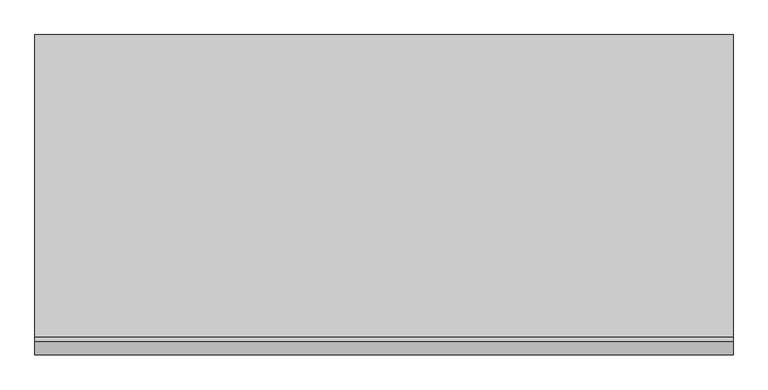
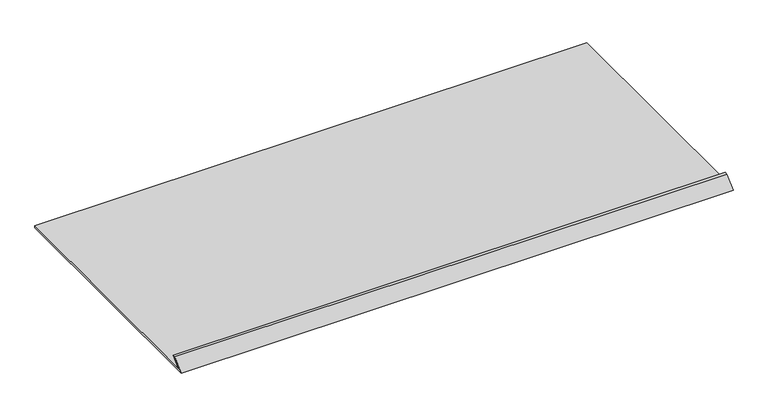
"""IFC4 building model written with IfcOpenShell, lengths in millimetres: proxy geometry, Подставка3 : Подставка."""

import ifcopenshell
import ifcopenshell.guid

model = None  # the IFC model being written
_history = None  # IfcOwnerHistory: only IFC2X3 demands one
_inside = {}  # id of a spatial element -> (the spatial element, [elements in it])
_under = {}  # id of a project, library or spatial element -> (it, [spatial elements below it])
_declared = {}  # id of a project -> (the project, [libraries it declares])
_typed = {}  # id of a type object -> (the type object, [elements of that type])
_made_of = {}  # id of a material, layer set ... -> (it, [elements and type objects made of it])


def new_model(schema):
    """Start an empty IFC model of exactly this schema.

    Asked for "IFC4X3", IfcOpenShell would pick the latest addendum, in which some entities
    have other attributes; the version numbers below select the first issue.
    IFC2X3 requires an IfcOwnerHistory on every rooted entity: one is made here for all.
    """
    global model, _history
    if schema == "IFC4X3":
        model = ifcopenshell.file(schema_version=(4, 3, 0, 0))
    else:
        model = ifcopenshell.file(schema=schema)
    _inside.clear()
    _under.clear()
    _declared.clear()
    _typed.clear()
    _made_of.clear()
    _history = None
    if model.schema == "IFC2X3":
        org = make("IfcOrganization", Name="unknown")
        user = make(
            "IfcPersonAndOrganization",
            ThePerson=make("IfcPerson", FamilyName="unknown"),
            TheOrganization=org,
        )
        app = make(
            "IfcApplication",
            ApplicationDeveloper=org,
            Version="unknown",
            ApplicationFullName="unknown",
            ApplicationIdentifier="unknown",
        )
        _history = make(
            "IfcOwnerHistory",
            OwningUser=user,
            OwningApplication=app,
            ChangeAction="ADDED",
            CreationDate=0,
        )
    return model


def make(cls, **values):
    """One entity of the class cls with the attributes given. An attribute that is None is left unset."""
    return model.create_entity(
        cls, **{name: value for name, value in values.items() if value is not None}
    )


def rooted(cls, **values):
    """An entity with a GlobalId (a new one), such as an element, a storey or a relation."""
    return make(cls, GlobalId=ifcopenshell.guid.new(), OwnerHistory=_history, **values)


def si_unit(unit_type, name, prefix=None):
    """IfcSIUnit, for example si_unit("LENGTHUNIT", "METRE", prefix="MILLI")."""
    return make("IfcSIUnit", UnitType=unit_type, Prefix=prefix, Name=name)


def assignment(units):
    """IfcUnitAssignment: the units of a project."""
    return None if units is None else make("IfcUnitAssignment", Units=units)


def point(xyz):
    """IfcCartesianPoint."""
    return None if xyz is None else make("IfcCartesianPoint", Coordinates=xyz)


def direction(xyz):
    """IfcDirection."""
    return None if xyz is None else make("IfcDirection", DirectionRatios=xyz)


def frame(location, z_axis=None, x_axis=None):
    """IfcAxis2Placement3D, a coordinate frame: its origin and axes. An axis left out is left unset."""
    return make(
        "IfcAxis2Placement3D",
        Location=point(location),
        Axis=direction(z_axis),
        RefDirection=direction(x_axis),
    )


def origin():
    """The frame at (0, 0, 0) with its axes left unset."""
    return frame((0.0, 0.0, 0.0))


def place(relative_to, where):
    """IfcLocalPlacement: puts the frame where relative to a parent placement (None: the world)."""
    return make(
        "IfcLocalPlacement", PlacementRelTo=relative_to, RelativePlacement=where
    )


def context(
    kind, dimensions, precision=None, world=None, true_north=None, identifier=None
):
    """IfcGeometricRepresentationContext, for example the 3D "Model" context."""
    return make(
        "IfcGeometricRepresentationContext",
        ContextIdentifier=identifier,
        ContextType=kind,
        CoordinateSpaceDimension=dimensions,
        Precision=precision,
        WorldCoordinateSystem=world,
        TrueNorth=true_north,
    )


def project(units=None, contexts=None):
    """IfcProject with its units and contexts."""
    return rooted(
        "IfcProject",
        Name="project",
        RepresentationContexts=contexts,
        UnitsInContext=assignment(units),
    )


def spatial(cls, under=None, at=None, **own):
    """A site, building, storey or space (cls), placed at a placement, below another one or the project."""
    s = rooted(cls, ObjectPlacement=at, **own)
    if under is not None:
        _under.setdefault(under.id(), (under, []))[1].append(s)
    return s


def polyline(points):
    """IfcPolyline through the points."""
    return make("IfcPolyline", Points=[point(p) for p in points])


def outline(outer, holes=None, kind="AREA"):
    """IfcArbitraryClosedProfileDef: a profile drawn as a closed curve; with holes, ...WithVoids."""
    if holes is None:
        return make("IfcArbitraryClosedProfileDef", ProfileType=kind, OuterCurve=outer)
    return make(
        "IfcArbitraryProfileDefWithVoids",
        ProfileType=kind,
        OuterCurve=outer,
        InnerCurves=holes,
    )


def extrude(swept, where, along, depth):
    """IfcExtrudedAreaSolid: the profile swept, set in the frame where, extruded along a direction by depth."""
    return make(
        "IfcExtrudedAreaSolid",
        SweptArea=swept,
        Position=where,
        ExtrudedDirection=direction(along),
        Depth=depth,
    )


def shape(context_of_items, identifier, shape_type, items):
    """IfcShapeRepresentation: the items that make up one representation, for example the "Body"."""
    return make(
        "IfcShapeRepresentation",
        ContextOfItems=context_of_items,
        RepresentationIdentifier=identifier,
        RepresentationType=shape_type,
        Items=items,
    )


def source(mapping_origin, context_of_items, identifier, shape_type, items):
    """IfcRepresentationMap: a shape defined once, which mapped items show again and again."""
    return make(
        "IfcRepresentationMap",
        MappingOrigin=mapping_origin,
        MappedRepresentation=shape(context_of_items, identifier, shape_type, items),
    )


def transform(
    local_origin,
    x_axis=None,
    y_axis=None,
    z_axis=None,
    scale=None,
    scale2=None,
    scale3=None,
    uniform=True,
):
    """IfcCartesianTransformationOperator3D, or its non-uniform kind. x_axis, y_axis, z_axis: its Axis1, 2, 3."""
    if uniform:
        return make(
            "IfcCartesianTransformationOperator3D",
            Axis1=direction(x_axis),
            Axis2=direction(y_axis),
            LocalOrigin=point(local_origin),
            Scale=scale,
            Axis3=direction(z_axis),
        )
    return make(
        "IfcCartesianTransformationOperator3DnonUniform",
        Axis1=direction(x_axis),
        Axis2=direction(y_axis),
        LocalOrigin=point(local_origin),
        Scale=scale,
        Axis3=direction(z_axis),
        Scale2=scale2,
        Scale3=scale3,
    )


def mapped(mapping_source, mapping_target):
    """IfcMappedItem: shows the shape of a source again, moved by a transform."""
    return make(
        "IfcMappedItem", MappingSource=mapping_source, MappingTarget=mapping_target
    )


def made_of(thing, what):
    """Note that an element or type object is made of a material, layer set ...; save() writes the relation."""
    if what is not None:
        _made_of.setdefault(what.id(), (what, []))[1].append(thing)
    return thing


def element(
    cls,
    number,
    at=None,
    inside=None,
    cuts=None,
    type_object=None,
    material=None,
    context=None,
    identifier="Body",
    shape_type=None,
    held_by="IfcProductDefinitionShape",
    body=None,
    shapes=None,
    **own,
):
    """One element of the class cls, such as IfcWall. Its Tag is "e" and its number.

    at: its placement. inside: the storey or other place that contains it. cuts: it is an
    opening in that element (IfcRelVoidsElement). A single representation is given by context,
    identifier, shape_type and body (its items); several are given by shapes. held_by: the class
    of the entity that holds the representations. save() writes the other relations.
    """
    e = rooted(cls, Tag="e%d" % number, ObjectPlacement=at, **own)
    if body is not None:
        shapes = [shape(context, identifier, shape_type, body)]
    if shapes is not None:
        e.Representation = make(held_by, Representations=shapes)
    if inside is not None:
        _inside.setdefault(inside.id(), (inside, []))[1].append(e)
    if cuts is not None:
        rooted(
            "IfcRelVoidsElement", RelatingBuildingElement=cuts, RelatedOpeningElement=e
        )
    if type_object is not None:
        _typed.setdefault(type_object.id(), (type_object, []))[1].append(e)
    return made_of(e, material)


def aggregate(whole, parts):
    """IfcRelAggregates: a whole, such as a stair, and the parts it consists of."""
    return rooted("IfcRelAggregates", RelatingObject=whole, RelatedObjects=parts)


def save(model, path):
    """Write the relations noted so far, then the file.

    IfcRelAggregates (storeys below a building ...), IfcRelContainedInSpatialStructure (elements
    in a storey), IfcRelDefinesByType, IfcRelAssociatesMaterial and IfcRelDeclares: one each for
    every whole, place, type object, material and project.
    """
    for whole, parts in _under.values():
        aggregate(whole, parts)
    for where, things in _inside.values():
        rooted(
            "IfcRelContainedInSpatialStructure",
            RelatedElements=things,
            RelatingStructure=where,
        )
    for kind, things in _typed.values():
        rooted("IfcRelDefinesByType", RelatedObjects=things, RelatingType=kind)
    for what, things in _made_of.values():
        rooted("IfcRelAssociatesMaterial", RelatedObjects=things, RelatingMaterial=what)
    for by, libraries in _declared.values():
        rooted("IfcRelDeclares", RelatingContext=by, RelatedDefinitions=libraries)
    model.write(path)


def generic_models_f48c6229(model_context):
    return source(origin(), model_context, "Body", "SweptSolid", [
        extrude(outline(polyline([(-18231.6740748, -100.0), (-17736.699328, 394.9747468), (-17595.2779717, 394.9747468), (-17990.2527186, 0.0), (-6507.3081345, 0.0), (-6507.3081345, -100.0), (-18231.6740748, -100.0)])), frame((-2205.1702167, 0.0, 0.0), z_axis=(1.0, 0.0, 0.0), x_axis=(0.0, 1.0, 0.0)), (0.0, 0.0, 1.0), 25554.9288865),
    ])


if __name__ == "__main__":
    model = new_model("IFC4")
    model_context = context("Model", 3, world=origin())
    ifc_project = project(units=[si_unit("LENGTHUNIT", "METRE", prefix="MILLI")], contexts=[model_context])
    site = spatial("IfcSite", under=ifc_project)
    building = spatial("IfcBuilding", under=site)
    placement = place(None, origin())
    generic_models_shape = generic_models_f48c6229(model_context)
    element("IfcBuildingElementProxy", 1, Name="Подставка3 : Подставка", ObjectType="Подставка3 : Подставка", at=placement, inside=building, context=model_context, shape_type="MappedRepresentation", body=[
        mapped(generic_models_shape, transform((0.0, 0.0, 0.0), x_axis=(1.0, 0.0, 0.0), y_axis=(0.0, 1.0, 0.0), z_axis=(0.0, 0.0, 1.0))),
    ])
    save(model, "model.ifc")
